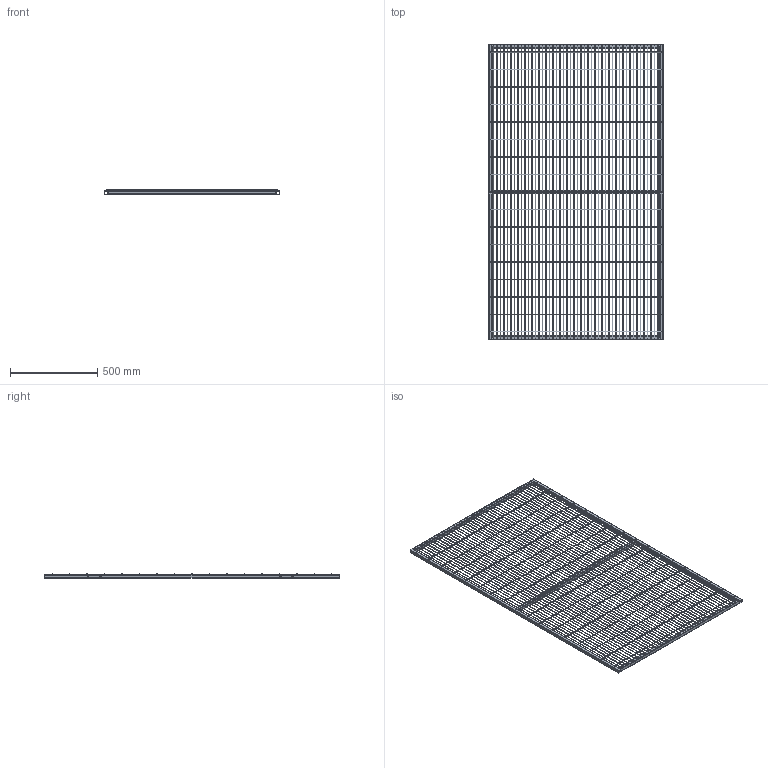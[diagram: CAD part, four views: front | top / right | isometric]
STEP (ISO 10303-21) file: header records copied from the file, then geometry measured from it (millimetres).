
FILE_DESCRIPTION (( 'STEP AP203' ), '1' );
FILE_NAME ('Door Panel 1000mm.STEP', '2023-11-28T22:36:10', ( '' ), ( '' ), 'SwSTEP 2.0', 'SolidWorks 2024', '' );
FILE_SCHEMA (( 'CONFIG_CONTROL_DESIGN' ));
Length unit declared in the file: millimetre
Products named in the file (1): Door Panel 1000mm
Bounding box: 1000 x 1688 x 25.96 mm (x, y, z)
Volume: 1360166 mm3; surface area: 1816154.6 mm2
Topology: 70 solids, 70 shells, 382 faces, 726 edges, 484 vertices
Faces by surface type: cylinder 202, plane 180
Entity records: 9817 total; most frequent: DIRECTION 1896, CARTESIAN_POINT 1593, ORIENTED_EDGE 1452, AXIS2_PLACEMENT_3D 787, EDGE_CURVE 726, VERTEX_POINT 484, EDGE_LOOP 424, CIRCLE 404
